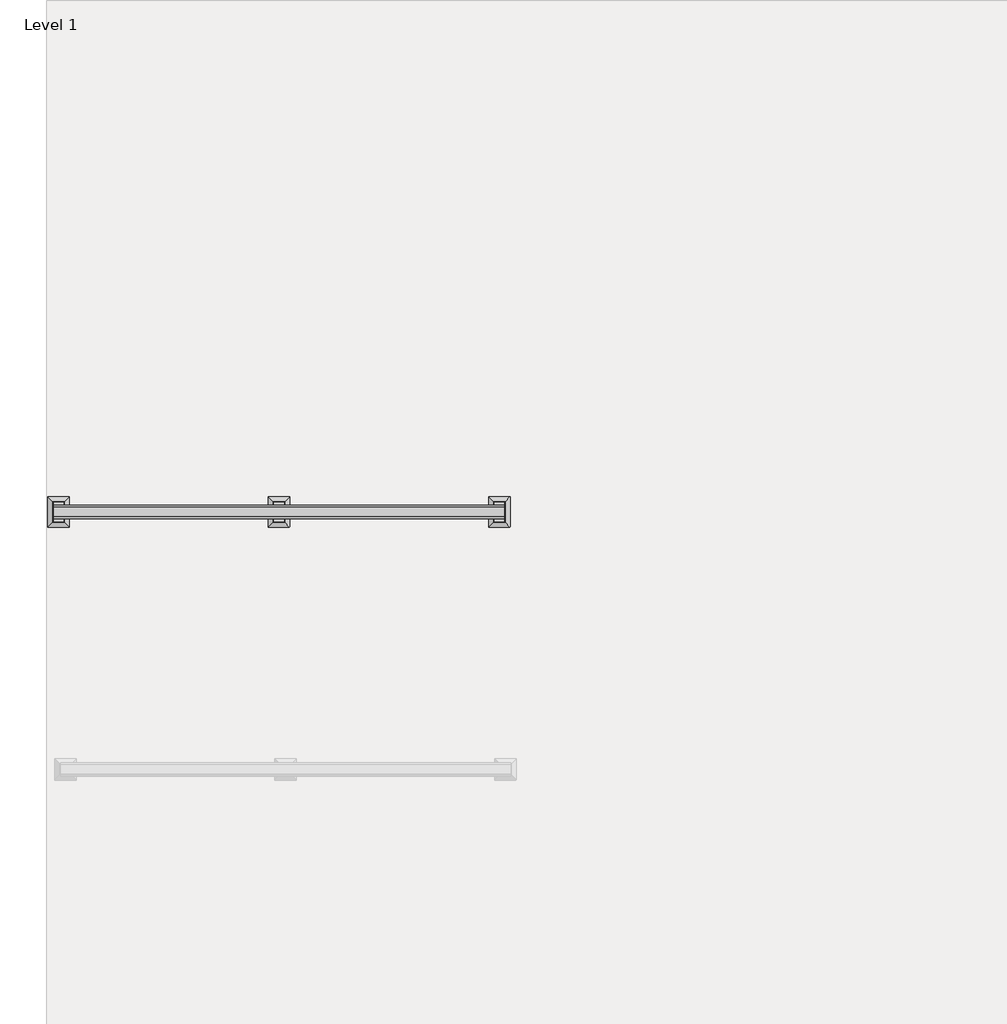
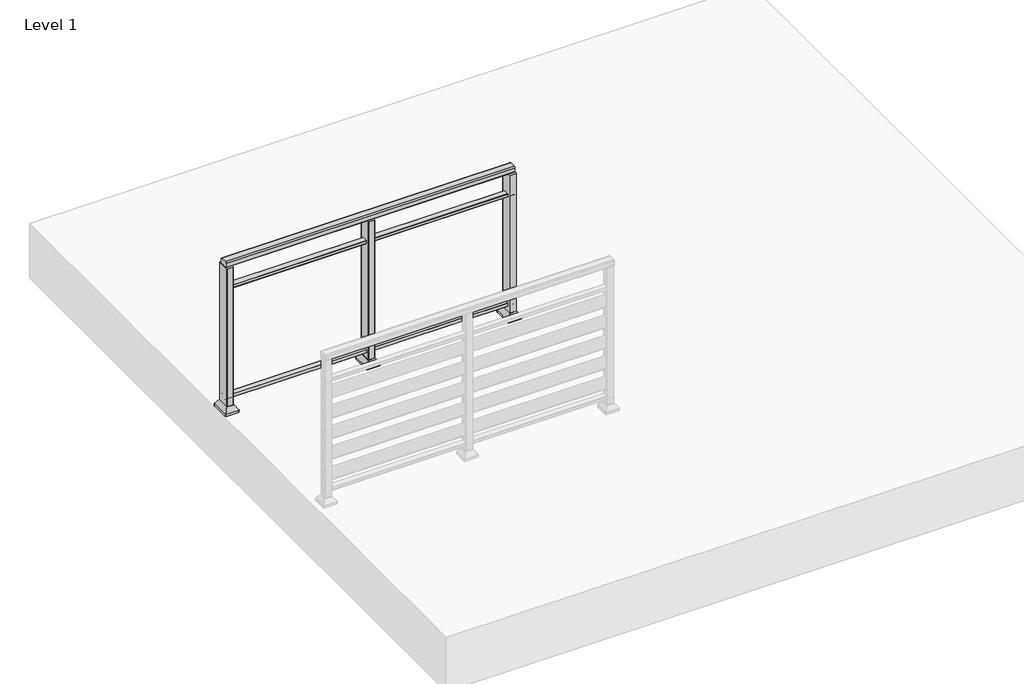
# One storey, part 2 of 2: 1 railing.
"""IFC4 building model written with IfcOpenShell, lengths in millimetres."""

from ifc_helpers import new_model, si_unit, point, frame, frame_2d, origin, place, context, project, spatial, polyline, circle_curve, ellipse_curve, trimmed, segment, composite_curve, outline, extrude, element, save
from ifc_brep_helpers import plane_surface, cylinder_surface, advanced_brep

model = new_model("IFC4")

# Units and contexts
model_context = context("Model", 3, world=origin())
ifc_project = project(units=[si_unit("LENGTHUNIT", "METRE", prefix="MILLI")], contexts=[model_context])

# Site, building, storey
site = spatial("IfcSite", under=ifc_project)
building = spatial("IfcBuilding", under=site)
storey = spatial("IfcBuildingStorey", under=building, Name="Level 1", Elevation=0.0)

# Railing
placement = place(None, origin())
element("IfcRailing", 1, ObjectType="OF 80 - F-1666", at=placement, inside=storey, context=model_context, shape_type="SolidModel", body=[
    extrude(outline(composite_curve([segment(trimmed(circle_curve(frame_2d((-1084.4004456, 1092.0)), 8.0), [point((-1084.4004456, 1100.0))], [point((-1076.4004456, 1092.0))], False, "CARTESIAN"), True, "CONTINUOUS"), segment(polyline([(-1076.4004456, 1092.0), (-1076.4004456, 1064.0)]), True, "CONTINUOUS"), segment(trimmed(circle_curve(frame_2d((-1080.4004456, 1064.0)), 4.0), [point((-1076.4004456, 1064.0))], [point((-1080.4004456, 1060.0))], False, "CARTESIAN"), True, "CONTINUOUS"), segment(polyline([(-1080.4004456, 1060.0), (-1132.4004456, 1060.0)]), True, "CONTINUOUS"), segment(trimmed(circle_curve(frame_2d((-1132.4004456, 1064.0)), 4.0), [point((-1132.4004456, 1060.0))], [point((-1136.4004456, 1064.0))], False, "CARTESIAN"), True, "CONTINUOUS"), segment(polyline([(-1136.4004456, 1064.0), (-1136.4004456, 1092.0)]), True, "CONTINUOUS"), segment(trimmed(circle_curve(frame_2d((-1128.4004456, 1092.0)), 8.0), [point((-1136.4004456, 1092.0))], [point((-1128.4004456, 1100.0))], False, "CARTESIAN"), True, "CONTINUOUS"), segment(polyline([(-1128.4004456, 1100.0), (-1084.4004456, 1100.0)]), True, "CONTINUOUS")], self_intersect=False)), frame((-3351.8861246, 0.0, 0.0), z_axis=(1.0, 0.0, 0.0), x_axis=(0.0, 1.0, 0.0)), (0.0, 0.0, 1.0), 2000.0),
    extrude(outline(composite_curve([segment(trimmed(circle_curve(frame_2d((-1125.5004456, 890.1)), 1.0), [point((-1125.5004456, 889.1))], [point((-1126.5004456, 890.1))], False, "CARTESIAN"), True, "CONTINUOUS"), segment(polyline([(-1126.5004456, 890.1), (-1126.5004456, 909.9)]), True, "CONTINUOUS"), segment(trimmed(circle_curve(frame_2d((-1125.5004456, 909.9)), 1.0), [point((-1126.5004456, 909.9))], [point((-1125.5004456, 910.9))], False, "CARTESIAN"), True, "CONTINUOUS"), segment(polyline([(-1125.5004456, 910.9), (-1087.3004456, 910.9)]), True, "CONTINUOUS"), segment(trimmed(circle_curve(frame_2d((-1087.3004456, 909.9)), 1.0), [point((-1087.3004456, 910.9))], [point((-1086.3004456, 909.9))], False, "CARTESIAN"), True, "CONTINUOUS"), segment(polyline([(-1086.3004456, 909.9), (-1086.3004456, 890.1)]), True, "CONTINUOUS"), segment(trimmed(circle_curve(frame_2d((-1087.3004456, 890.1)), 1.0), [point((-1086.3004456, 890.1))], [point((-1087.3004456, 889.1))], False, "CARTESIAN"), True, "CONTINUOUS"), segment(polyline([(-1087.3004456, 889.1), (-1125.5004456, 889.1)]), True, "CONTINUOUS")], self_intersect=False)), frame((-3351.8861246, 0.0, 0.0), z_axis=(1.0, 0.0, 0.0), x_axis=(0.0, 1.0, 0.0)), (0.0, 0.0, 1.0), 2000.0),
    extrude(outline(composite_curve([segment(trimmed(circle_curve(frame_2d((-1125.5004456, 90.1)), 1.0), [point((-1125.5004456, 89.1))], [point((-1126.5004456, 90.1))], False, "CARTESIAN"), True, "CONTINUOUS"), segment(polyline([(-1126.5004456, 90.1), (-1126.5004456, 109.9)]), True, "CONTINUOUS"), segment(trimmed(circle_curve(frame_2d((-1125.5004456, 109.9)), 1.0), [point((-1126.5004456, 109.9))], [point((-1125.5004456, 110.9))], False, "CARTESIAN"), True, "CONTINUOUS"), segment(polyline([(-1125.5004456, 110.9), (-1087.3004456, 110.9)]), True, "CONTINUOUS"), segment(trimmed(circle_curve(frame_2d((-1087.3004456, 109.9)), 1.0), [point((-1087.3004456, 110.9))], [point((-1086.3004456, 109.9))], False, "CARTESIAN"), True, "CONTINUOUS"), segment(polyline([(-1086.3004456, 109.9), (-1086.3004456, 90.1)]), True, "CONTINUOUS"), segment(trimmed(circle_curve(frame_2d((-1087.3004456, 90.1)), 1.0), [point((-1086.3004456, 90.1))], [point((-1087.3004456, 89.1))], False, "CARTESIAN"), True, "CONTINUOUS"), segment(polyline([(-1087.3004456, 89.1), (-1125.5004456, 89.1)]), True, "CONTINUOUS")], self_intersect=False)), frame((-3351.8861246, 0.0, 0.0), z_axis=(1.0, 0.0, 0.0), x_axis=(0.0, 1.0, 0.0)), (0.0, 0.0, 1.0), 2000.0),
    advanced_brep(
    [(-2376.8861246, -1151.9004456, 50.0), (-2326.8861246, -1151.9004456, 50.0), (-2326.8861246, -1060.9004456, 50.0), (-2376.8861246, -1060.9004456, 50.0), (-2399.8861246, -1040.9004456, 0.0), (-2396.8861246, -1037.9004456, 0.0), (-2306.8861246, -1037.9004456, 0.0), (-2303.8861246, -1040.9004456, 0.0), (-2303.8861246, -1169.9486325, 0.0), (-2308.8379376, -1174.9004456, 0.0), (-2396.8861246, -1174.9004456, 0.0), (-2399.8861246, -1171.9004456, 0.0), (-2399.8861246, -1171.9004456, 17.0), (-2399.8861246, -1040.9004456, 17.0), (-2396.8861246, -1174.9004456, 17.0), (-2399.0074449, -1174.0217659, 18.2607143), (-2308.8379376, -1174.9004456, 17.0), (-2303.8861246, -1169.9486325, 17.0), (-2305.336477, -1173.4500931, 19.0809405), (-2303.8861246, -1040.9004456, 17.0), (-2306.8861246, -1037.9004456, 17.0), (-2304.7648042, -1038.7791252, 18.2607143), (-2396.8861246, -1037.9004456, 17.0), (-2399.0074449, -1038.7791252, 18.2607143)],
    [
        (0, 1),
        (1, 2),
        (2, 3),
        (3, 0),
        (4, 5, circle_curve(frame((-2396.8861246, -1040.9004456, 0.0), z_axis=(0.0, 0.0, -1.0), x_axis=(0.0, 1.0, 0.0)), 3.0)),
        (5, 6),
        (6, 7, circle_curve(frame((-2306.8861246, -1040.9004456, 0.0), z_axis=(0.0, 0.0, -1.0), x_axis=(0.0, 1.0, 0.0)), 3.0)),
        (7, 8),
        (8, 9, circle_curve(frame((-2308.8379376, -1169.9486325, 0.0), z_axis=(0.0, 0.0, -1.0), x_axis=(0.0, 1.0, 0.0)), 4.951813)),
        (9, 10),
        (10, 11, circle_curve(frame((-2396.8861246, -1171.9004456, 0.0), z_axis=(0.0, 0.0, -1.0), x_axis=(0.0, 1.0, 0.0)), 3.0)),
        (11, 4),
        (11, 12),
        (12, 13),
        (13, 4),
        (10, 14),
        (14, 15, ellipse_curve(frame((-2396.8861246, -1171.9004456, 21.3043478), z_axis=(0.0, 0.8203981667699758, -0.5717926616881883), x_axis=(0.0, 0.5717926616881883, 0.8203981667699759)), 5.2466571, 3.0)),
        (15, 12, ellipse_curve(frame((-2396.8861246, -1171.9004456, 21.3043478), z_axis=(0.8203981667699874, 0.0, -0.5717926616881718), x_axis=(0.5717926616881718, 0.0, 0.8203981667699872)), 5.2466571, 3.0)),
        (9, 16),
        (16, 14),
        (8, 17),
        (17, 18, ellipse_curve(frame((-2308.8379376, -1169.9486325, 24.1047752), z_axis=(-0.8203981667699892, 0.0, -0.5717926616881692), x_axis=(-0.5717926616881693, 0.0, 0.8203981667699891)), 8.6601549, 4.951813)),
        (18, 16, ellipse_curve(frame((-2308.8379376, -1169.9486325, 24.1047752), z_axis=(0.0, 0.8203981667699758, -0.5717926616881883), x_axis=(0.0, 0.5717926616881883, 0.8203981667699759)), 8.6601549, 4.951813)),
        (7, 19),
        (19, 17),
        (6, 20),
        (20, 21, ellipse_curve(frame((-2306.8861246, -1040.9004456, 21.3043478), z_axis=(0.0, -0.8203981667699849, -0.5717926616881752), x_axis=(0.0, -0.5717926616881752, 0.8203981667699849)), 5.2466571, 3.0)),
        (21, 19, ellipse_curve(frame((-2306.8861246, -1040.9004456, 21.3043478), z_axis=(-0.8203981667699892, 0.0, -0.5717926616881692), x_axis=(-0.5717926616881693, 0.0, 0.8203981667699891)), 5.2466571, 3.0)),
        (5, 22),
        (22, 20),
        (13, 23, ellipse_curve(frame((-2396.8861246, -1040.9004456, 21.3043478), z_axis=(0.8203981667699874, 0.0, -0.5717926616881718), x_axis=(0.5717926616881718, 0.0, 0.8203981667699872)), 5.2466571, 3.0)),
        (23, 22, ellipse_curve(frame((-2396.8861246, -1040.9004456, 21.3043478), z_axis=(0.0, -0.8203981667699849, -0.5717926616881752), x_axis=(0.0, -0.5717926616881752, 0.8203981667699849)), 5.2466571, 3.0)),
        (18, 1),
        (0, 15),
        (23, 3),
        (2, 21),
    ],
    [
        plane_surface(frame((-2399.8861246, -1161.3107388, 50.0), z_axis=(0.0, 0.0, 1.0), x_axis=(0.0, -1.0, 0.0))),
        plane_surface(frame((-2399.8861246, -1161.3107388, 0.0), z_axis=(0.0, 0.0, -1.0), x_axis=(0.0, 1.0, 0.0))),
        plane_surface(frame((-2399.8861246, -1040.9004456, 50.0), z_axis=(-1.0, 0.0, 0.0), x_axis=(0.0, 0.0, -1.0))),
        cylinder_surface(frame((-2396.8861246, -1171.9004456, 0.0), z_axis=(0.0, 0.0, 1.0), x_axis=(0.0, 1.0, 0.0)), 3.0),
        plane_surface(frame((-2396.8861246, -1174.9004456, 50.0), z_axis=(0.0, -1.0, 0.0), x_axis=(0.0, 0.0, -1.0))),
        cylinder_surface(frame((-2308.8379376, -1169.9486325, 0.0), z_axis=(0.0, 0.0, 1.0), x_axis=(0.0, 1.0, 0.0)), 4.951813),
        plane_surface(frame((-2303.8861246, -1169.9486325, 50.0), z_axis=(1.0, 0.0, 0.0), x_axis=(0.0, 0.0, -1.0))),
        cylinder_surface(frame((-2306.8861246, -1040.9004456, 0.0), z_axis=(0.0, 0.0, 1.0), x_axis=(0.0, 1.0, 0.0)), 3.0),
        plane_surface(frame((-2306.8861246, -1037.9004456, 50.0), z_axis=(0.0, 1.0, 0.0), x_axis=(0.0, 0.0, -1.0))),
        cylinder_surface(frame((-2396.8861246, -1040.9004456, 0.0), z_axis=(0.0, 0.0, 1.0), x_axis=(0.0, 1.0, 0.0)), 3.0),
        plane_surface(frame((-2303.8861246, -1174.9004456, 17.0), z_axis=(0.0, -0.8203981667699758, 0.5717926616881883), x_axis=(-1.0, 0.0, 0.0))),
        plane_surface(frame((-2303.8861246, -1060.9004456, 50.0), z_axis=(0.0, 0.8203981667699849, 0.5717926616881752), x_axis=(-1.0, 0.0, 0.0))),
        plane_surface(frame((-2376.8861246, -1037.9004456, 50.0), z_axis=(-0.8203981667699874, 0.0, 0.5717926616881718), x_axis=(0.0, -1.0, 0.0))),
        plane_surface(frame((-2303.8861246, -1037.9004456, 17.0), z_axis=(0.8203981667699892, 0.0, 0.5717926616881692), x_axis=(0.0, -1.0, 0.0))),
    ],
    [
        (0, [[1, 2, 3, 4]]),
        (1, [[5, 6, 7, 8, 9, 10, 11, 12]]),
        (2, [[-12, 13, 14, 15]]),
        (3, [[-11, 16, 17, 18, -13]]),
        (4, [[-10, 19, 20, -16]]),
        (5, [[-9, 21, 22, 23, -19]]),
        (6, [[-8, 24, 25, -21]]),
        (7, [[-7, 26, 27, 28, -24]]),
        (8, [[-6, 29, 30, -26]]),
        (9, [[-5, -15, 31, 32, -29]]),
        (10, [[-20, -23, 33, -1, 34, -17]]),
        (11, [[-30, -32, 35, -3, 36, -27]]),
        (12, [[-4, -35, -31, -14, -18, -34]]),
        (13, [[-2, -33, -22, -25, -28, -36]]),
    ],
),
    extrude(outline(composite_curve([segment(polyline([(-2373.3861246, -1063.4004456), (-2330.3861246, -1063.4004456)]), True, "CONTINUOUS"), segment(trimmed(circle_curve(frame_2d((-2330.3861246, -1064.4004456)), 1.0), [point((-2330.3861246, -1063.4004456))], [point((-2329.3861246, -1064.4004456))], False, "CARTESIAN"), True, "CONTINUOUS"), segment(polyline([(-2329.3861246, -1064.4004456), (-2329.3861246, -1148.4004456)]), True, "CONTINUOUS"), segment(trimmed(circle_curve(frame_2d((-2330.3861246, -1148.4004456)), 1.0), [point((-2329.3861246, -1148.4004456))], [point((-2330.3861246, -1149.4004456))], False, "CARTESIAN"), True, "CONTINUOUS"), segment(polyline([(-2330.3861246, -1149.4004456), (-2373.3861246, -1149.4004456)]), True, "CONTINUOUS"), segment(trimmed(circle_curve(frame_2d((-2373.3861246, -1148.4004456)), 1.0), [point((-2373.3861246, -1149.4004456))], [point((-2374.3861246, -1148.4004456))], False, "CARTESIAN"), True, "CONTINUOUS"), segment(polyline([(-2374.3861246, -1148.4004456), (-2374.3861246, -1064.4004456)]), True, "CONTINUOUS"), segment(trimmed(circle_curve(frame_2d((-2373.3861246, -1064.4004456)), 1.0), [point((-2374.3861246, -1064.4004456))], [point((-2373.3861246, -1063.4004456))], False, "CARTESIAN"), True, "CONTINUOUS")], self_intersect=False)), frame((0.0, 0.0, 50.0), z_axis=(0.0, 0.0, 1.0), x_axis=(1.0, 0.0, 0.0)), (0.0, 0.0, 1.0), 1010.0),
    advanced_brep(
    [(-1397.4361246, -1151.9004456, 50.0), (-1347.4361246, -1151.9004456, 50.0), (-1347.4361246, -1060.9004456, 50.0), (-1397.4361246, -1060.9004456, 50.0), (-1420.4361246, -1040.9004456, 0.0), (-1417.4361246, -1037.9004456, 0.0), (-1327.4361246, -1037.9004456, 0.0), (-1324.4361246, -1040.9004456, 0.0), (-1324.4361246, -1169.9486325, 0.0), (-1329.3879376, -1174.9004456, 0.0), (-1417.4361246, -1174.9004456, 0.0), (-1420.4361246, -1171.9004456, 0.0), (-1420.4361246, -1171.9004456, 17.0), (-1420.4361246, -1040.9004456, 17.0), (-1417.4361246, -1174.9004456, 17.0), (-1419.5574449, -1174.0217659, 18.2607143), (-1329.3879376, -1174.9004456, 17.0), (-1324.4361246, -1169.9486325, 17.0), (-1325.886477, -1173.4500931, 19.0809405), (-1324.4361246, -1040.9004456, 17.0), (-1327.4361246, -1037.9004456, 17.0), (-1325.3148042, -1038.7791252, 18.2607143), (-1417.4361246, -1037.9004456, 17.0), (-1419.5574449, -1038.7791252, 18.2607143)],
    [
        (0, 1),
        (1, 2),
        (2, 3),
        (3, 0),
        (4, 5, circle_curve(frame((-1417.4361246, -1040.9004456, 0.0), z_axis=(0.0, 0.0, -1.0), x_axis=(0.0, 1.0, 0.0)), 3.0)),
        (5, 6),
        (6, 7, circle_curve(frame((-1327.4361246, -1040.9004456, 0.0), z_axis=(0.0, 0.0, -1.0), x_axis=(0.0, 1.0, 0.0)), 3.0)),
        (7, 8),
        (8, 9, circle_curve(frame((-1329.3879376, -1169.9486325, 0.0), z_axis=(0.0, 0.0, -1.0), x_axis=(0.0, 1.0, 0.0)), 4.951813)),
        (9, 10),
        (10, 11, circle_curve(frame((-1417.4361246, -1171.9004456, 0.0), z_axis=(0.0, 0.0, -1.0), x_axis=(0.0, 1.0, 0.0)), 3.0)),
        (11, 4),
        (11, 12),
        (12, 13),
        (13, 4),
        (10, 14),
        (14, 15, ellipse_curve(frame((-1417.4361246, -1171.9004456, 21.3043478), z_axis=(0.0, 0.8203981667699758, -0.5717926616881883), x_axis=(0.0, 0.5717926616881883, 0.8203981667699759)), 5.2466571, 3.0)),
        (15, 12, ellipse_curve(frame((-1417.4361246, -1171.9004456, 21.3043478), z_axis=(0.8203981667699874, 0.0, -0.5717926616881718), x_axis=(0.5717926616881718, 0.0, 0.8203981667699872)), 5.2466571, 3.0)),
        (9, 16),
        (16, 14),
        (8, 17),
        (17, 18, ellipse_curve(frame((-1329.3879376, -1169.9486325, 24.1047752), z_axis=(-0.8203981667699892, 0.0, -0.5717926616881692), x_axis=(-0.5717926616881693, 0.0, 0.8203981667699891)), 8.6601549, 4.951813)),
        (18, 16, ellipse_curve(frame((-1329.3879376, -1169.9486325, 24.1047752), z_axis=(0.0, 0.8203981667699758, -0.5717926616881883), x_axis=(0.0, 0.5717926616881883, 0.8203981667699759)), 8.6601549, 4.951813)),
        (7, 19),
        (19, 17),
        (6, 20),
        (20, 21, ellipse_curve(frame((-1327.4361246, -1040.9004456, 21.3043478), z_axis=(0.0, -0.8203981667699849, -0.5717926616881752), x_axis=(0.0, -0.5717926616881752, 0.8203981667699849)), 5.2466571, 3.0)),
        (21, 19, ellipse_curve(frame((-1327.4361246, -1040.9004456, 21.3043478), z_axis=(-0.8203981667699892, 0.0, -0.5717926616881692), x_axis=(-0.5717926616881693, 0.0, 0.8203981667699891)), 5.2466571, 3.0)),
        (5, 22),
        (22, 20),
        (13, 23, ellipse_curve(frame((-1417.4361246, -1040.9004456, 21.3043478), z_axis=(0.8203981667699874, 0.0, -0.5717926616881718), x_axis=(0.5717926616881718, 0.0, 0.8203981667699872)), 5.2466571, 3.0)),
        (23, 22, ellipse_curve(frame((-1417.4361246, -1040.9004456, 21.3043478), z_axis=(0.0, -0.8203981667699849, -0.5717926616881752), x_axis=(0.0, -0.5717926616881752, 0.8203981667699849)), 5.2466571, 3.0)),
        (18, 1),
        (0, 15),
        (23, 3),
        (2, 21),
    ],
    [
        plane_surface(frame((-1420.4361246, -1161.3107388, 50.0), z_axis=(0.0, 0.0, 1.0), x_axis=(0.0, -1.0, 0.0))),
        plane_surface(frame((-1420.4361246, -1161.3107388, 0.0), z_axis=(0.0, 0.0, -1.0), x_axis=(0.0, 1.0, 0.0))),
        plane_surface(frame((-1420.4361246, -1040.9004456, 50.0), z_axis=(-1.0, 0.0, 0.0), x_axis=(0.0, 0.0, -1.0))),
        cylinder_surface(frame((-1417.4361246, -1171.9004456, 0.0), z_axis=(0.0, 0.0, 1.0), x_axis=(0.0, 1.0, 0.0)), 3.0),
        plane_surface(frame((-1417.4361246, -1174.9004456, 50.0), z_axis=(0.0, -1.0, 0.0), x_axis=(0.0, 0.0, -1.0))),
        cylinder_surface(frame((-1329.3879376, -1169.9486325, 0.0), z_axis=(0.0, 0.0, 1.0), x_axis=(0.0, 1.0, 0.0)), 4.951813),
        plane_surface(frame((-1324.4361246, -1169.9486325, 50.0), z_axis=(1.0, 0.0, 0.0), x_axis=(0.0, 0.0, -1.0))),
        cylinder_surface(frame((-1327.4361246, -1040.9004456, 0.0), z_axis=(0.0, 0.0, 1.0), x_axis=(0.0, 1.0, 0.0)), 3.0),
        plane_surface(frame((-1327.4361246, -1037.9004456, 50.0), z_axis=(0.0, 1.0, 0.0), x_axis=(0.0, 0.0, -1.0))),
        cylinder_surface(frame((-1417.4361246, -1040.9004456, 0.0), z_axis=(0.0, 0.0, 1.0), x_axis=(0.0, 1.0, 0.0)), 3.0),
        plane_surface(frame((-1324.4361246, -1174.9004456, 17.0), z_axis=(0.0, -0.8203981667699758, 0.5717926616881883), x_axis=(-1.0, 0.0, 0.0))),
        plane_surface(frame((-1324.4361246, -1060.9004456, 50.0), z_axis=(0.0, 0.8203981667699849, 0.5717926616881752), x_axis=(-1.0, 0.0, 0.0))),
        plane_surface(frame((-1397.4361246, -1037.9004456, 50.0), z_axis=(-0.8203981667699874, 0.0, 0.5717926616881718), x_axis=(0.0, -1.0, 0.0))),
        plane_surface(frame((-1324.4361246, -1037.9004456, 17.0), z_axis=(0.8203981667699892, 0.0, 0.5717926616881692), x_axis=(0.0, -1.0, 0.0))),
    ],
    [
        (0, [[1, 2, 3, 4]]),
        (1, [[5, 6, 7, 8, 9, 10, 11, 12]]),
        (2, [[-12, 13, 14, 15]]),
        (3, [[-11, 16, 17, 18, -13]]),
        (4, [[-10, 19, 20, -16]]),
        (5, [[-9, 21, 22, 23, -19]]),
        (6, [[-8, 24, 25, -21]]),
        (7, [[-7, 26, 27, 28, -24]]),
        (8, [[-6, 29, 30, -26]]),
        (9, [[-5, -15, 31, 32, -29]]),
        (10, [[-20, -23, 33, -1, 34, -17]]),
        (11, [[-30, -32, 35, -3, 36, -27]]),
        (12, [[-4, -35, -31, -14, -18, -34]]),
        (13, [[-2, -33, -22, -25, -28, -36]]),
    ],
),
    extrude(outline(composite_curve([segment(polyline([(-1393.9361246, -1063.4004456), (-1350.9361246, -1063.4004456)]), True, "CONTINUOUS"), segment(trimmed(circle_curve(frame_2d((-1350.9361246, -1064.4004456)), 1.0), [point((-1350.9361246, -1063.4004456))], [point((-1349.9361246, -1064.4004456))], False, "CARTESIAN"), True, "CONTINUOUS"), segment(polyline([(-1349.9361246, -1064.4004456), (-1349.9361246, -1148.4004456)]), True, "CONTINUOUS"), segment(trimmed(circle_curve(frame_2d((-1350.9361246, -1148.4004456)), 1.0), [point((-1349.9361246, -1148.4004456))], [point((-1350.9361246, -1149.4004456))], False, "CARTESIAN"), True, "CONTINUOUS"), segment(polyline([(-1350.9361246, -1149.4004456), (-1393.9361246, -1149.4004456)]), True, "CONTINUOUS"), segment(trimmed(circle_curve(frame_2d((-1393.9361246, -1148.4004456)), 1.0), [point((-1393.9361246, -1149.4004456))], [point((-1394.9361246, -1148.4004456))], False, "CARTESIAN"), True, "CONTINUOUS"), segment(polyline([(-1394.9361246, -1148.4004456), (-1394.9361246, -1064.4004456)]), True, "CONTINUOUS"), segment(trimmed(circle_curve(frame_2d((-1393.9361246, -1064.4004456)), 1.0), [point((-1394.9361246, -1064.4004456))], [point((-1393.9361246, -1063.4004456))], False, "CARTESIAN"), True, "CONTINUOUS")], self_intersect=False)), frame((0.0, 0.0, 50.0), z_axis=(0.0, 0.0, 1.0), x_axis=(1.0, 0.0, 0.0)), (0.0, 0.0, 1.0), 1010.0),
    advanced_brep(
    [(-3356.3361246, -1151.9004456, 50.0), (-3306.3361246, -1151.9004456, 50.0), (-3306.3361246, -1060.9004456, 50.0), (-3356.3361246, -1060.9004456, 50.0), (-3379.3361246, -1040.9004456, 0.0), (-3376.3361246, -1037.9004456, 0.0), (-3286.3361246, -1037.9004456, 0.0), (-3283.3361246, -1040.9004456, 0.0), (-3283.3361246, -1169.9486325, 0.0), (-3288.2879376, -1174.9004456, 0.0), (-3376.3361246, -1174.9004456, 0.0), (-3379.3361246, -1171.9004456, 0.0), (-3379.3361246, -1171.9004456, 17.0), (-3379.3361246, -1040.9004456, 17.0), (-3376.3361246, -1174.9004456, 17.0), (-3378.4574449, -1174.0217659, 18.2607143), (-3288.2879376, -1174.9004456, 17.0), (-3283.3361246, -1169.9486325, 17.0), (-3284.786477, -1173.4500931, 19.0809405), (-3283.3361246, -1040.9004456, 17.0), (-3286.3361246, -1037.9004456, 17.0), (-3284.2148042, -1038.7791252, 18.2607143), (-3376.3361246, -1037.9004456, 17.0), (-3378.4574449, -1038.7791252, 18.2607143)],
    [
        (0, 1),
        (1, 2),
        (2, 3),
        (3, 0),
        (4, 5, circle_curve(frame((-3376.3361246, -1040.9004456, 0.0), z_axis=(0.0, 0.0, -1.0), x_axis=(0.0, 1.0, 0.0)), 3.0)),
        (5, 6),
        (6, 7, circle_curve(frame((-3286.3361246, -1040.9004456, 0.0), z_axis=(0.0, 0.0, -1.0), x_axis=(0.0, 1.0, 0.0)), 3.0)),
        (7, 8),
        (8, 9, circle_curve(frame((-3288.2879376, -1169.9486325, 0.0), z_axis=(0.0, 0.0, -1.0), x_axis=(0.0, 1.0, 0.0)), 4.951813)),
        (9, 10),
        (10, 11, circle_curve(frame((-3376.3361246, -1171.9004456, 0.0), z_axis=(0.0, 0.0, -1.0), x_axis=(0.0, 1.0, 0.0)), 3.0)),
        (11, 4),
        (11, 12),
        (12, 13),
        (13, 4),
        (10, 14),
        (14, 15, ellipse_curve(frame((-3376.3361246, -1171.9004456, 21.3043478), z_axis=(0.0, 0.8203981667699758, -0.5717926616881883), x_axis=(0.0, 0.5717926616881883, 0.8203981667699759)), 5.2466571, 3.0)),
        (15, 12, ellipse_curve(frame((-3376.3361246, -1171.9004456, 21.3043478), z_axis=(0.8203981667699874, 0.0, -0.5717926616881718), x_axis=(0.5717926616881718, 0.0, 0.8203981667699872)), 5.2466571, 3.0)),
        (9, 16),
        (16, 14),
        (8, 17),
        (17, 18, ellipse_curve(frame((-3288.2879376, -1169.9486325, 24.1047752), z_axis=(-0.8203981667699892, 0.0, -0.5717926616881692), x_axis=(-0.5717926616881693, 0.0, 0.8203981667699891)), 8.6601549, 4.951813)),
        (18, 16, ellipse_curve(frame((-3288.2879376, -1169.9486325, 24.1047752), z_axis=(0.0, 0.8203981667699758, -0.5717926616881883), x_axis=(0.0, 0.5717926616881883, 0.8203981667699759)), 8.6601549, 4.951813)),
        (7, 19),
        (19, 17),
        (6, 20),
        (20, 21, ellipse_curve(frame((-3286.3361246, -1040.9004456, 21.3043478), z_axis=(0.0, -0.8203981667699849, -0.5717926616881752), x_axis=(0.0, -0.5717926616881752, 0.8203981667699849)), 5.2466571, 3.0)),
        (21, 19, ellipse_curve(frame((-3286.3361246, -1040.9004456, 21.3043478), z_axis=(-0.8203981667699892, 0.0, -0.5717926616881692), x_axis=(-0.5717926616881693, 0.0, 0.8203981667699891)), 5.2466571, 3.0)),
        (5, 22),
        (22, 20),
        (13, 23, ellipse_curve(frame((-3376.3361246, -1040.9004456, 21.3043478), z_axis=(0.8203981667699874, 0.0, -0.5717926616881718), x_axis=(0.5717926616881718, 0.0, 0.8203981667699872)), 5.2466571, 3.0)),
        (23, 22, ellipse_curve(frame((-3376.3361246, -1040.9004456, 21.3043478), z_axis=(0.0, -0.8203981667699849, -0.5717926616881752), x_axis=(0.0, -0.5717926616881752, 0.8203981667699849)), 5.2466571, 3.0)),
        (18, 1),
        (0, 15),
        (23, 3),
        (2, 21),
    ],
    [
        plane_surface(frame((-3379.3361246, -1161.3107388, 50.0), z_axis=(0.0, 0.0, 1.0), x_axis=(0.0, -1.0, 0.0))),
        plane_surface(frame((-3379.3361246, -1161.3107388, 0.0), z_axis=(0.0, 0.0, -1.0), x_axis=(0.0, 1.0, 0.0))),
        plane_surface(frame((-3379.3361246, -1040.9004456, 50.0), z_axis=(-1.0, 0.0, 0.0), x_axis=(0.0, 0.0, -1.0))),
        cylinder_surface(frame((-3376.3361246, -1171.9004456, 0.0), z_axis=(0.0, 0.0, 1.0), x_axis=(0.0, 1.0, 0.0)), 3.0),
        plane_surface(frame((-3376.3361246, -1174.9004456, 50.0), z_axis=(0.0, -1.0, 0.0), x_axis=(0.0, 0.0, -1.0))),
        cylinder_surface(frame((-3288.2879376, -1169.9486325, 0.0), z_axis=(0.0, 0.0, 1.0), x_axis=(0.0, 1.0, 0.0)), 4.951813),
        plane_surface(frame((-3283.3361246, -1169.9486325, 50.0), z_axis=(1.0, 0.0, 0.0), x_axis=(0.0, 0.0, -1.0))),
        cylinder_surface(frame((-3286.3361246, -1040.9004456, 0.0), z_axis=(0.0, 0.0, 1.0), x_axis=(0.0, 1.0, 0.0)), 3.0),
        plane_surface(frame((-3286.3361246, -1037.9004456, 50.0), z_axis=(0.0, 1.0, 0.0), x_axis=(0.0, 0.0, -1.0))),
        cylinder_surface(frame((-3376.3361246, -1040.9004456, 0.0), z_axis=(0.0, 0.0, 1.0), x_axis=(0.0, 1.0, 0.0)), 3.0),
        plane_surface(frame((-3283.3361246, -1174.9004456, 17.0), z_axis=(0.0, -0.8203981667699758, 0.5717926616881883), x_axis=(-1.0, 0.0, 0.0))),
        plane_surface(frame((-3283.3361246, -1060.9004456, 50.0), z_axis=(0.0, 0.8203981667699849, 0.5717926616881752), x_axis=(-1.0, 0.0, 0.0))),
        plane_surface(frame((-3356.3361246, -1037.9004456, 50.0), z_axis=(-0.8203981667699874, 0.0, 0.5717926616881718), x_axis=(0.0, -1.0, 0.0))),
        plane_surface(frame((-3283.3361246, -1037.9004456, 17.0), z_axis=(0.8203981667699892, 0.0, 0.5717926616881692), x_axis=(0.0, -1.0, 0.0))),
    ],
    [
        (0, [[1, 2, 3, 4]]),
        (1, [[5, 6, 7, 8, 9, 10, 11, 12]]),
        (2, [[-12, 13, 14, 15]]),
        (3, [[-11, 16, 17, 18, -13]]),
        (4, [[-10, 19, 20, -16]]),
        (5, [[-9, 21, 22, 23, -19]]),
        (6, [[-8, 24, 25, -21]]),
        (7, [[-7, 26, 27, 28, -24]]),
        (8, [[-6, 29, 30, -26]]),
        (9, [[-5, -15, 31, 32, -29]]),
        (10, [[-20, -23, 33, -1, 34, -17]]),
        (11, [[-30, -32, 35, -3, 36, -27]]),
        (12, [[-4, -35, -31, -14, -18, -34]]),
        (13, [[-2, -33, -22, -25, -28, -36]]),
    ],
),
    extrude(outline(composite_curve([segment(polyline([(-3352.8361246, -1063.4004456), (-3309.8361246, -1063.4004456)]), True, "CONTINUOUS"), segment(trimmed(circle_curve(frame_2d((-3309.8361246, -1064.4004456)), 1.0), [point((-3309.8361246, -1063.4004456))], [point((-3308.8361246, -1064.4004456))], False, "CARTESIAN"), True, "CONTINUOUS"), segment(polyline([(-3308.8361246, -1064.4004456), (-3308.8361246, -1148.4004456)]), True, "CONTINUOUS"), segment(trimmed(circle_curve(frame_2d((-3309.8361246, -1148.4004456)), 1.0), [point((-3308.8361246, -1148.4004456))], [point((-3309.8361246, -1149.4004456))], False, "CARTESIAN"), True, "CONTINUOUS"), segment(polyline([(-3309.8361246, -1149.4004456), (-3352.8361246, -1149.4004456)]), True, "CONTINUOUS"), segment(trimmed(circle_curve(frame_2d((-3352.8361246, -1148.4004456)), 1.0), [point((-3352.8361246, -1149.4004456))], [point((-3353.8361246, -1148.4004456))], False, "CARTESIAN"), True, "CONTINUOUS"), segment(polyline([(-3353.8361246, -1148.4004456), (-3353.8361246, -1064.4004456)]), True, "CONTINUOUS"), segment(trimmed(circle_curve(frame_2d((-3352.8361246, -1064.4004456)), 1.0), [point((-3353.8361246, -1064.4004456))], [point((-3352.8361246, -1063.4004456))], False, "CARTESIAN"), True, "CONTINUOUS")], self_intersect=False)), frame((0.0, 0.0, 50.0), z_axis=(0.0, 0.0, 1.0), x_axis=(1.0, 0.0, 0.0)), (0.0, 0.0, 1.0), 1010.0),
])

save(model, "model.ifc")
